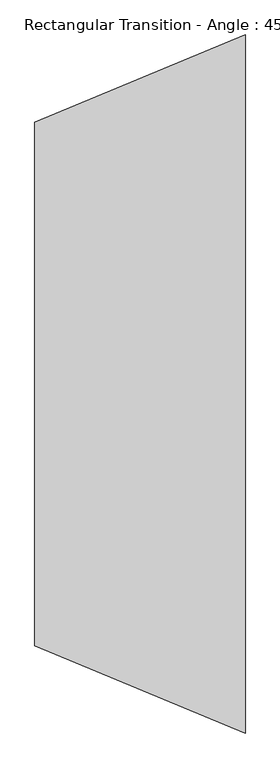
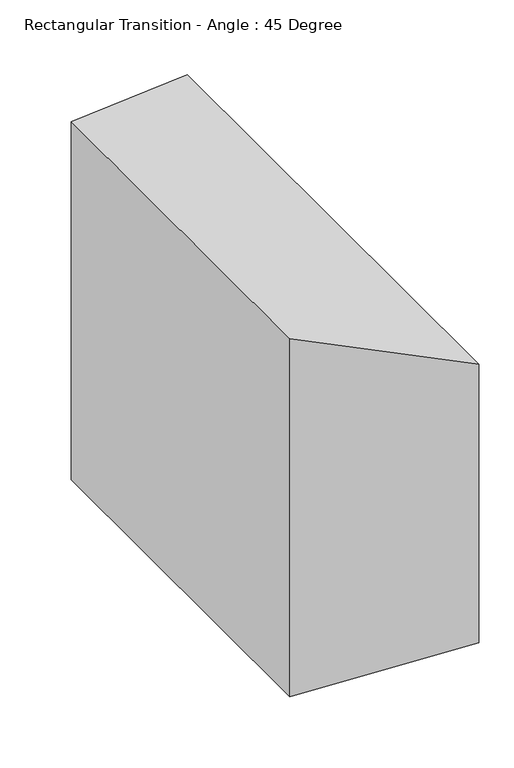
"""IFC4 building model written with IfcOpenShell, lengths in millimetres: duct fitting geometry, Rectangular Transition - Angle : 45 Degree."""

from ifc_helpers import new_model, si_unit, origin, place, context, project, spatial, faceted_brep, source, transform, mapped, element, save


def rectangular_transition_angle_45_degree_0e215f8e(model_context):
    return source(origin(), model_context, "Body", "Brep", [
        faceted_brep([(367.9261469, 609.6, 355.6), (367.9261469, -609.6, 355.6), (367.9261469, -609.6, -355.6), (367.9261469, 609.6, -355.6), (0.0, 457.2, 457.2), (0.0, 457.2, -457.2), (0.0, -457.2, -457.2), (0.0, -457.2, 457.2)], [[[0, 1, 2, 3]], [[4, 5, 6, 7]], [[4, 0, 3, 5]], [[5, 3, 2, 6]], [[6, 2, 1, 7]], [[7, 1, 0, 4]]]),
    ])


if __name__ == "__main__":
    model = new_model("IFC4")
    model_context = context("Model", 3, world=origin())
    ifc_project = project(units=[si_unit("LENGTHUNIT", "METRE", prefix="MILLI")], contexts=[model_context])
    site = spatial("IfcSite", under=ifc_project)
    building = spatial("IfcBuilding", under=site)
    placement = place(None, origin())
    rectangular_transition_angle_45_degree_shape = rectangular_transition_angle_45_degree_0e215f8e(model_context)
    element("IfcDuctFitting", 1, ObjectType="Rectangular Transition - Angle : 45 Degree", at=placement, inside=building, context=model_context, shape_type="MappedRepresentation", body=[
        mapped(rectangular_transition_angle_45_degree_shape, transform((0.0, 0.0, 0.0), x_axis=(1.0, 0.0, 0.0), y_axis=(0.0, 1.0, 0.0), z_axis=(0.0, 0.0, 1.0))),
    ])
    save(model, "model.ifc")
